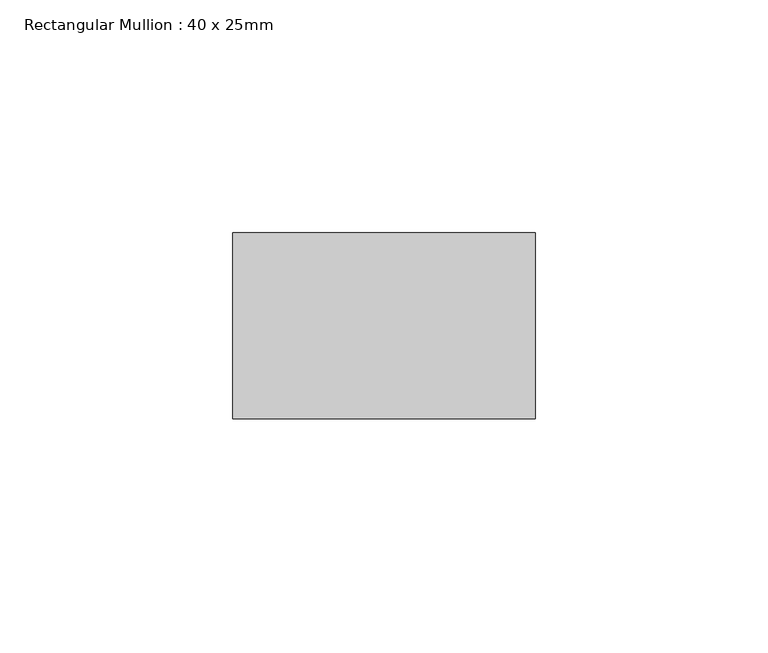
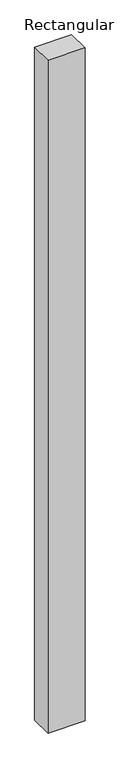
"""IFC4 building model written with IfcOpenShell, lengths in millimetres: member geometry, Rectangular Mullion : 40 x 25mm."""

from ifc_helpers import new_model, si_unit, frame, origin, place, context, project, spatial, polyline, outline, extrude, source, transform, mapped, element, save


def rectangular_mullion_40_x_25mm_0a18c03f(model_context):
    return source(origin(), model_context, "Body", "SweptSolid", [
        extrude(outline(polyline([(0.0, -20.0), (0.0, -60.0), (-65.0, -60.0), (-65.0, -20.0), (0.0, -20.0)])), frame((0.0, 0.0, -1247.110738), z_axis=(0.0, 0.0, 1.0), x_axis=(1.0, 0.0, 0.0)), (0.0, 0.0, 1.0), 1247.110738),
    ])


if __name__ == "__main__":
    model = new_model("IFC4")
    model_context = context("Model", 3, world=origin())
    ifc_project = project(units=[si_unit("LENGTHUNIT", "METRE", prefix="MILLI")], contexts=[model_context])
    site = spatial("IfcSite", under=ifc_project)
    building = spatial("IfcBuilding", under=site)
    placement = place(None, origin())
    rectangular_mullion_40_x_25mm_shape = rectangular_mullion_40_x_25mm_0a18c03f(model_context)
    element("IfcMember", 1, ObjectType="Rectangular Mullion : 40 x 25mm", at=placement, inside=building, context=model_context, shape_type="MappedRepresentation", body=[
        mapped(rectangular_mullion_40_x_25mm_shape, transform((0.0, 0.0, 0.0), x_axis=(1.0, 0.0, 0.0), y_axis=(0.0, 1.0, 0.0), z_axis=(0.0, 0.0, 1.0))),
    ])
    save(model, "model.ifc")
